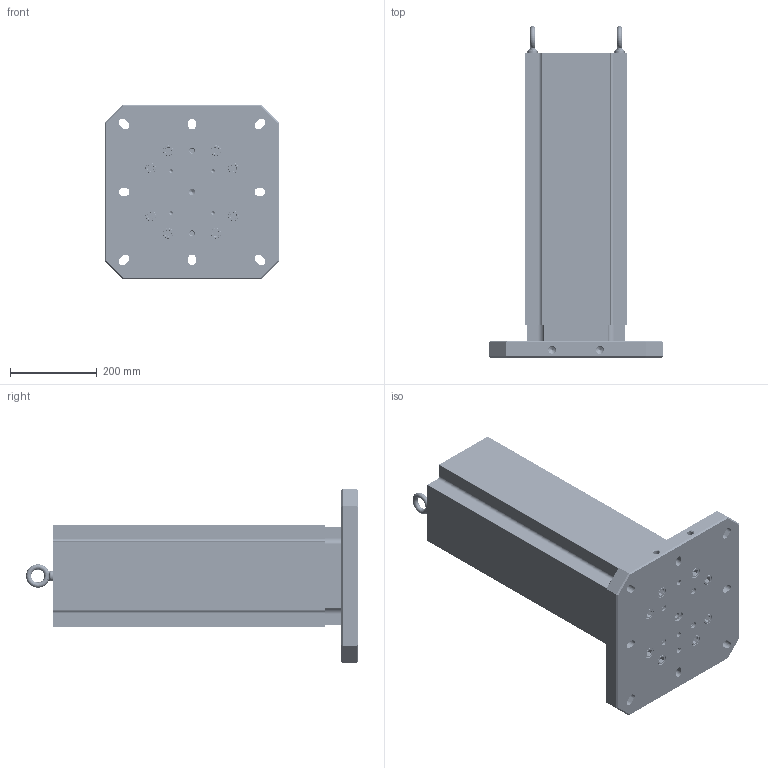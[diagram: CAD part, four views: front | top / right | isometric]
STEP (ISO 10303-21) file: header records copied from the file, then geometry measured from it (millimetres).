
FILE_DESCRIPTION (( 'STEP AP214' ), '1' );
FILE_NAME ('MTA-4004U-700.STEP', '2025-06-24T06:22:07', ( '' ), ( '' ), 'SwSTEP 2.0', 'SolidWorks 2024', '' );
FILE_SCHEMA (( 'AUTOMOTIVE_DESIGN' ));
Length unit declared in the file: millimetre
Products named in the file (8): MTA-4004U-700; MT-4662A_MT-4600A; 156x2.OR  -  O-RING, 156mm ID X 2mm THK, BUNA-N, 70A; RL96-14TC; HW.76452_dev_91290A835; HW.76172; RL96-4004BUA; M12X24MM.EB (McM 3040T15)_3040T15
Assembly tree (18 placements, depth 2):
  MTA-4004U-700
    RL96-4004BUA
    MT-4662A_MT-4600A
    M12X24MM.EB (McM 3040T15)_3040T15  x2
    156x2.OR  -  O-RING, 156mm ID X 2mm THK, BUNA-N, 70A
    HW.76452_dev_91290A835  x8
    RL96-14TC
    HW.76172  x4
Bounding box: 400 x 762.9 x 400 mm (x, y, z)
Volume: 27502490.1 mm3; surface area: 1552727.8 mm2
Topology: 18 solids, 18 shells, 2062 faces, 5522 edges, 3522 vertices
Faces by surface type: cylinder 1388, plane 318, cone 284, bspline 42, torus 30
Entity records: 33382 total; most frequent: CARTESIAN_POINT 13908, ORIENTED_EDGE 4162, DIRECTION 3945, EDGE_CURVE 2081, AXIS2_PLACEMENT_3D 1482, VERTEX_POINT 1327, VECTOR 981, LINE 981
